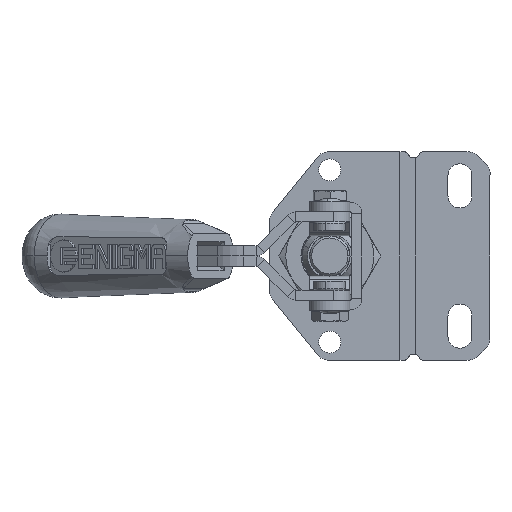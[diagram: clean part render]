
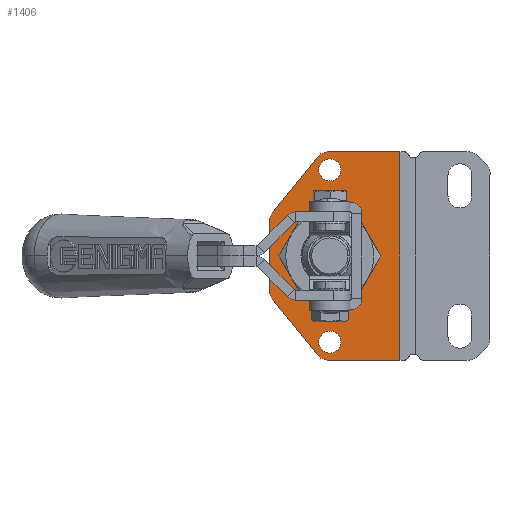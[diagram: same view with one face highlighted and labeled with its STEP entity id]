
A CAD part, left-side view. The second image highlights one B-rep face of the part: STEP entity #1406.
In plain terms, the highlighted planar face has unit normal (-1, 0, 0) as drawn and (1, 0, 0) by its records, which use the part's own axes.
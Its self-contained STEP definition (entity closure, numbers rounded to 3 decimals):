
#96 = CARTESIAN_POINT ( 'NONE',  ( 20.93, 18.003, -21.5 ) ) ;
#528 = ORIENTED_EDGE ( 'NONE', *, *, #32381, .T. ) ;
#558 = LINE ( 'NONE', #3359, #19963 ) ;
#1285 = FACE_OUTER_BOUND ( 'NONE', #24081, .T. ) ;
#1406 = ADVANCED_FACE ( 'NONE', ( #1285, #33849, #6575, #15073 ), #12240, .F. ) ;
#1511 = VERTEX_POINT ( 'NONE', #32371 ) ;
#1635 = CARTESIAN_POINT ( 'NONE',  ( 20.93, 18.003, -18.75 ) ) ;
#1661 = LINE ( 'NONE', #1997, #33422 ) ;
#1674 = EDGE_CURVE ( 'NONE', #6818, #11802, #7770, .T. ) ;
#1997 = CARTESIAN_POINT ( 'NONE',  ( 20.93, -21.997, 26. ) ) ;
#2538 = EDGE_CURVE ( 'NONE', #23390, #27803, #6563, .T. ) ;
#2715 = CARTESIAN_POINT ( 'NONE',  ( 20.93, 18.003, -24.25 ) ) ;
#2866 = DIRECTION ( 'NONE',  ( 1., 0., 0. ) ) ;
#3359 = CARTESIAN_POINT ( 'NONE',  ( 20.93, 20.003, 26. ) ) ;
#3541 = AXIS2_PLACEMENT_3D ( 'NONE', #96, #21496, #32301 ) ;
#3647 = ORIENTED_EDGE ( 'NONE', *, *, #24607, .T. ) ;
#3740 = CARTESIAN_POINT ( 'NONE',  ( 20.93, 18.575, -26. ) ) ;
#3784 = DIRECTION ( 'NONE',  ( 1., 0., 0. ) ) ;
#4081 = CIRCLE ( 'NONE', #8596, 10.1 ) ;
#4134 = VERTEX_POINT ( 'NONE', #16998 ) ;
#4286 = DIRECTION ( 'NONE',  ( 0., 0., 1. ) ) ;
#4547 = DIRECTION ( 'NONE',  ( 1., 0., 0. ) ) ;
#4590 = DIRECTION ( 'NONE',  ( 1., 0., 0. ) ) ;
#4788 = CARTESIAN_POINT ( 'NONE',  ( 20.93, 18.575, 23. ) ) ;
#4800 = EDGE_LOOP ( 'NONE', ( #31637, #7571 ) ) ;
#5258 = LINE ( 'NONE', #27197, #33455 ) ;
#6334 = LINE ( 'NONE', #9353, #33376 ) ;
#6375 = EDGE_CURVE ( 'NONE', #7111, #1511, #31070, .T. ) ;
#6563 = CIRCLE ( 'NONE', #7686, 2.75 ) ;
#6575 = FACE_BOUND ( 'NONE', #8689, .T. ) ;
#6818 = VERTEX_POINT ( 'NONE', #30735 ) ;
#6966 = CIRCLE ( 'NONE', #3541, 2.75 ) ;
#7111 = VERTEX_POINT ( 'NONE', #26981 ) ;
#7571 = ORIENTED_EDGE ( 'NONE', *, *, #17223, .F. ) ;
#7686 = AXIS2_PLACEMENT_3D ( 'NONE', #17749, #33682, #4286 ) ;
#7770 = CIRCLE ( 'NONE', #17357, 3. ) ;
#8596 = AXIS2_PLACEMENT_3D ( 'NONE', #16463, #32582, #16290 ) ;
#8689 = EDGE_LOOP ( 'NONE', ( #18231, #10641 ) ) ;
#8789 = VERTEX_POINT ( 'NONE', #31734 ) ;
#9136 = AXIS2_PLACEMENT_3D ( 'NONE', #22998, #4590, #20350 ) ;
#9353 = CARTESIAN_POINT ( 'NONE',  ( 20.93, 33.003, 10. ) ) ;
#9451 = LINE ( 'NONE', #15454, #27545 ) ;
#9471 = CIRCLE ( 'NONE', #26409, 10.1 ) ;
#9597 = CARTESIAN_POINT ( 'NONE',  ( 20.93, 18.003, 0. ) ) ;
#10059 = VERTEX_POINT ( 'NONE', #12326 ) ;
#10633 = CARTESIAN_POINT ( 'NONE',  ( 20.93, 18.575, -23. ) ) ;
#10641 = ORIENTED_EDGE ( 'NONE', *, *, #13108, .F. ) ;
#10652 = CARTESIAN_POINT ( 'NONE',  ( 20.93, 18.003, 24.25 ) ) ;
#10981 = DIRECTION ( 'NONE',  ( 1., 0., 0. ) ) ;
#11304 = EDGE_CURVE ( 'NONE', #30053, #20671, #27239, .T. ) ;
#11567 = ORIENTED_EDGE ( 'NONE', *, *, #1674, .T. ) ;
#11802 = VERTEX_POINT ( 'NONE', #29498 ) ;
#11944 = VECTOR ( 'NONE', #21002, 1000. ) ;
#12240 = PLANE ( 'NONE',  #24106 ) ;
#12326 = CARTESIAN_POINT ( 'NONE',  ( 20.93, 0.5, -26. ) ) ;
#12629 = CARTESIAN_POINT ( 'NONE',  ( 20.93, 18.003, 21.5 ) ) ;
#12841 = EDGE_CURVE ( 'NONE', #10059, #26758, #23659, .T. ) ;
#13108 = EDGE_CURVE ( 'NONE', #19353, #32096, #20993, .T. ) ;
#13316 = DIRECTION ( 'NONE',  ( 0., 0., 1. ) ) ;
#13577 = EDGE_CURVE ( 'NONE', #11802, #30053, #6334, .T. ) ;
#13747 = EDGE_CURVE ( 'NONE', #10059, #16899, #5258, .T. ) ;
#14746 = CARTESIAN_POINT ( 'NONE',  ( 20.93, 18.003, -21.5 ) ) ;
#15073 = FACE_BOUND ( 'NONE', #4800, .T. ) ;
#15139 = EDGE_CURVE ( 'NONE', #1511, #26758, #1661, .T. ) ;
#15237 = DIRECTION ( 'NONE',  ( 1., 0., 0. ) ) ;
#15454 = CARTESIAN_POINT ( 'NONE',  ( 20.93, 33.003, -10. ) ) ;
#16290 = DIRECTION ( 'NONE',  ( 0., 0., 1. ) ) ;
#16463 = CARTESIAN_POINT ( 'NONE',  ( 20.93, 18.003, 0. ) ) ;
#16899 = VERTEX_POINT ( 'NONE', #3740 ) ;
#16998 = CARTESIAN_POINT ( 'NONE',  ( 20.93, 20.903, -24.892 ) ) ;
#17052 = AXIS2_PLACEMENT_3D ( 'NONE', #14746, #21229, #25538 ) ;
#17223 = EDGE_CURVE ( 'NONE', #20404, #8789, #4081, .T. ) ;
#17357 = AXIS2_PLACEMENT_3D ( 'NONE', #33765, #4547, #28807 ) ;
#17377 = DIRECTION ( 'NONE',  ( 0., 0., -1. ) ) ;
#17749 = CARTESIAN_POINT ( 'NONE',  ( 20.93, 18.003, 21.5 ) ) ;
#17997 = AXIS2_PLACEMENT_3D ( 'NONE', #12629, #3784, #23437 ) ;
#18216 = ORIENTED_EDGE ( 'NONE', *, *, #13577, .T. ) ;
#18231 = ORIENTED_EDGE ( 'NONE', *, *, #34736, .F. ) ;
#18986 = CARTESIAN_POINT ( 'NONE',  ( 20.93, 18.003, 0. ) ) ;
#19353 = VERTEX_POINT ( 'NONE', #2715 ) ;
#19476 = EDGE_LOOP ( 'NONE', ( #24187, #30073 ) ) ;
#19963 = VECTOR ( 'NONE', #27456, 1000. ) ;
#20311 = EDGE_CURVE ( 'NONE', #8789, #20404, #9471, .T. ) ;
#20350 = DIRECTION ( 'NONE',  ( 0., -1., 0. ) ) ;
#20404 = VERTEX_POINT ( 'NONE', #22163 ) ;
#20671 = VERTEX_POINT ( 'NONE', #21428 ) ;
#20710 = DIRECTION ( 'NONE',  ( 0., -1., 0. ) ) ;
#20993 = CIRCLE ( 'NONE', #17052, 2.75 ) ;
#21002 = DIRECTION ( 'NONE',  ( 0., 0., 1. ) ) ;
#21229 = DIRECTION ( 'NONE',  ( 1., 0., 0. ) ) ;
#21428 = CARTESIAN_POINT ( 'NONE',  ( 20.93, 32.331, 10.827 ) ) ;
#21496 = DIRECTION ( 'NONE',  ( 1., 0., 0. ) ) ;
#21723 = ORIENTED_EDGE ( 'NONE', *, *, #6375, .T. ) ;
#21945 = DIRECTION ( 'NONE',  ( 0., -1., 0. ) ) ;
#22163 = CARTESIAN_POINT ( 'NONE',  ( 20.93, 18.003, -10.1 ) ) ;
#22998 = CARTESIAN_POINT ( 'NONE',  ( 20.93, 30.003, 8.935 ) ) ;
#23248 = DIRECTION ( 'NONE',  ( 0., -1., 0. ) ) ;
#23330 = AXIS2_PLACEMENT_3D ( 'NONE', #10633, #10981, #21945 ) ;
#23390 = VERTEX_POINT ( 'NONE', #30482 ) ;
#23437 = DIRECTION ( 'NONE',  ( 0., 0., 1. ) ) ;
#23659 = LINE ( 'NONE', #28461, #11944 ) ;
#23853 = ORIENTED_EDGE ( 'NONE', *, *, #30737, .T. ) ;
#23859 = ORIENTED_EDGE ( 'NONE', *, *, #11304, .T. ) ;
#24081 = EDGE_LOOP ( 'NONE', ( #24861, #23853, #3647, #11567, #18216, #23859, #528, #21723, #26168, #25025 ) ) ;
#24106 = AXIS2_PLACEMENT_3D ( 'NONE', #9597, #31198, #17377 ) ;
#24187 = ORIENTED_EDGE ( 'NONE', *, *, #26161, .F. ) ;
#24445 = CIRCLE ( 'NONE', #23330, 3. ) ;
#24607 = EDGE_CURVE ( 'NONE', #4134, #6818, #9451, .T. ) ;
#24861 = ORIENTED_EDGE ( 'NONE', *, *, #13747, .T. ) ;
#25025 = ORIENTED_EDGE ( 'NONE', *, *, #12841, .F. ) ;
#25538 = DIRECTION ( 'NONE',  ( 0., 0., 1. ) ) ;
#26161 = EDGE_CURVE ( 'NONE', #27803, #23390, #34963, .T. ) ;
#26168 = ORIENTED_EDGE ( 'NONE', *, *, #15139, .T. ) ;
#26409 = AXIS2_PLACEMENT_3D ( 'NONE', #18986, #2866, #13316 ) ;
#26758 = VERTEX_POINT ( 'NONE', #32759 ) ;
#26847 = DIRECTION ( 'NONE',  ( 0., 1., 0. ) ) ;
#26981 = CARTESIAN_POINT ( 'NONE',  ( 20.93, 20.903, 24.892 ) ) ;
#27197 = CARTESIAN_POINT ( 'NONE',  ( 20.93, 20.003, -26. ) ) ;
#27239 = CIRCLE ( 'NONE', #9136, 3. ) ;
#27456 = DIRECTION ( 'NONE',  ( 0., -0.631, 0.776 ) ) ;
#27545 = VECTOR ( 'NONE', #28221, 1000. ) ;
#27803 = VERTEX_POINT ( 'NONE', #10652 ) ;
#28221 = DIRECTION ( 'NONE',  ( 0., 0.631, 0.776 ) ) ;
#28341 = CARTESIAN_POINT ( 'NONE',  ( 20.93, 33.003, 8.935 ) ) ;
#28461 = CARTESIAN_POINT ( 'NONE',  ( 20.93, 0.5, 0. ) ) ;
#28807 = DIRECTION ( 'NONE',  ( 0., -1., 0. ) ) ;
#29498 = CARTESIAN_POINT ( 'NONE',  ( 20.93, 33.003, -8.935 ) ) ;
#30053 = VERTEX_POINT ( 'NONE', #28341 ) ;
#30073 = ORIENTED_EDGE ( 'NONE', *, *, #2538, .F. ) ;
#30482 = CARTESIAN_POINT ( 'NONE',  ( 20.93, 18.003, 18.75 ) ) ;
#30735 = CARTESIAN_POINT ( 'NONE',  ( 20.93, 32.331, -10.827 ) ) ;
#30737 = EDGE_CURVE ( 'NONE', #16899, #4134, #24445, .T. ) ;
#30948 = DIRECTION ( 'NONE',  ( 0., 0., 1. ) ) ;
#31070 = CIRCLE ( 'NONE', #33309, 3. ) ;
#31198 = DIRECTION ( 'NONE',  ( -1., 0., 0. ) ) ;
#31637 = ORIENTED_EDGE ( 'NONE', *, *, #20311, .F. ) ;
#31734 = CARTESIAN_POINT ( 'NONE',  ( 20.93, 18.003, 10.1 ) ) ;
#32096 = VERTEX_POINT ( 'NONE', #1635 ) ;
#32301 = DIRECTION ( 'NONE',  ( 0., 0., 1. ) ) ;
#32371 = CARTESIAN_POINT ( 'NONE',  ( 20.93, 18.575, 26. ) ) ;
#32381 = EDGE_CURVE ( 'NONE', #20671, #7111, #558, .T. ) ;
#32582 = DIRECTION ( 'NONE',  ( 1., 0., 0. ) ) ;
#32759 = CARTESIAN_POINT ( 'NONE',  ( 20.93, 0.5, 26. ) ) ;
#33309 = AXIS2_PLACEMENT_3D ( 'NONE', #4788, #15237, #20710 ) ;
#33376 = VECTOR ( 'NONE', #30948, 1000. ) ;
#33422 = VECTOR ( 'NONE', #23248, 1000. ) ;
#33455 = VECTOR ( 'NONE', #26847, 1000. ) ;
#33682 = DIRECTION ( 'NONE',  ( 1., 0., 0. ) ) ;
#33765 = CARTESIAN_POINT ( 'NONE',  ( 20.93, 30.003, -8.935 ) ) ;
#33849 = FACE_BOUND ( 'NONE', #19476, .T. ) ;
#34736 = EDGE_CURVE ( 'NONE', #32096, #19353, #6966, .T. ) ;
#34963 = CIRCLE ( 'NONE', #17997, 2.75 ) ;
